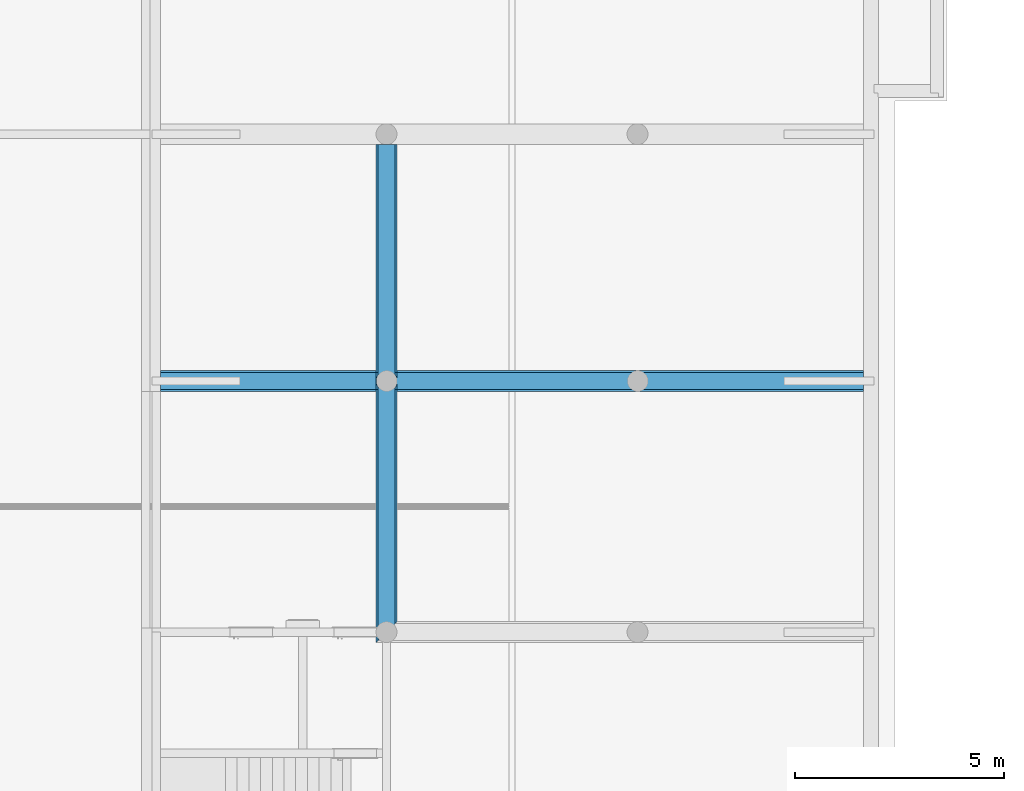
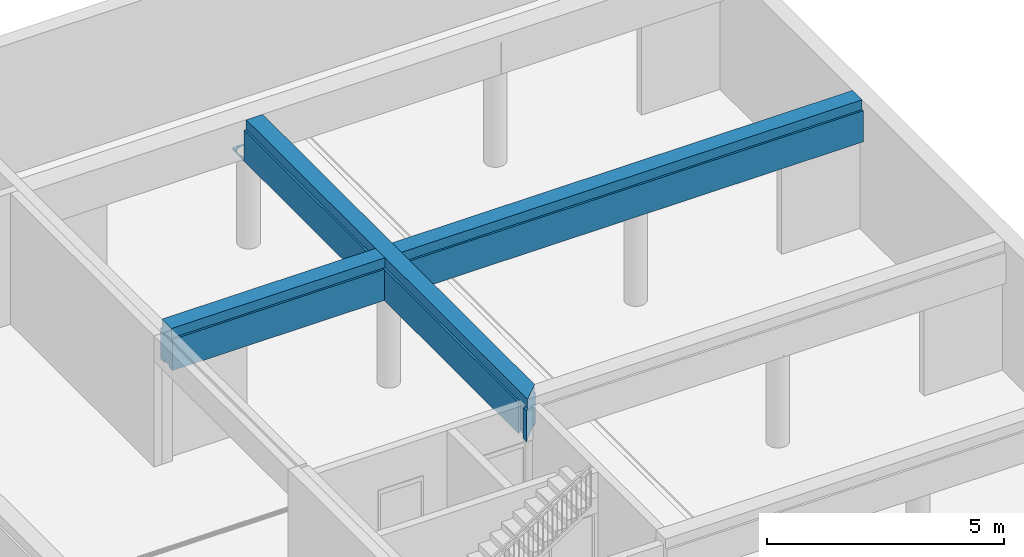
# One storey, part 12 of 25: 2 beams.
"""IFC2X3 building model written with IfcOpenShell, lengths in millimetres."""

from ifc_helpers import new_model, entity, si_unit, converted_unit, derived_unit, money_unit, direction, frame, origin_with_axes, place, context, subcontext, project, spatial, faceted_brep, material, material_list, type_object, element, save


model = new_model("IFC2X3")

# Units and contexts
model_context = context("Model", 3, precision=0.01, world=origin_with_axes(), true_north=direction((0.34421633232, 0.938890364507)))
body_context = subcontext(model_context, "Body", "Model", "MODEL_VIEW")
ifc_project = project(units=[si_unit("LENGTHUNIT", "METRE", prefix="MILLI"), si_unit("AREAUNIT", "SQUARE_METRE"), si_unit("VOLUMEUNIT", "CUBIC_METRE"), converted_unit("PLANEANGLEUNIT", "DEGREE", entity("IfcPlaneAngleMeasure", 0.0174532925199), si_unit("PLANEANGLEUNIT", "RADIAN"), dimensions=[0, 0, 0, 0, 0, 0, 0]), si_unit("SOLIDANGLEUNIT", "STERADIAN"), money_unit("USD"), converted_unit("TIMEUNIT", "Year", entity("IfcTimeMeasure", 31556926.0), si_unit("TIMEUNIT", "SECOND"), dimensions=[0, 0, 1, 0, 0, 0, 0]), si_unit("MASSUNIT", "GRAM", prefix="KILO"), si_unit("THERMODYNAMICTEMPERATUREUNIT", "DEGREE_CELSIUS"), si_unit("LUMINOUSINTENSITYUNIT", "LUMEN"), si_unit("ENERGYUNIT", "JOULE", prefix="MEGA"), derived_unit("THERMALCONDUCTANCEUNIT", [(si_unit("POWERUNIT", "WATT"), 1), (si_unit("LENGTHUNIT", "METRE"), -1), (si_unit("THERMODYNAMICTEMPERATUREUNIT", "KELVIN"), -1)]), derived_unit("SPECIFICHEATCAPACITYUNIT", [(si_unit("ENERGYUNIT", "JOULE"), 1), (si_unit("MASSUNIT", "GRAM", prefix="KILO"), -1), (si_unit("THERMODYNAMICTEMPERATUREUNIT", "KELVIN"), -1)]), derived_unit("MASSDENSITYUNIT", [(si_unit("MASSUNIT", "GRAM", prefix="KILO"), 1), (si_unit("VOLUMEUNIT", "CUBIC_METRE"), -1)])], contexts=[model_context])

# Site, building, storey
site_placement = place(None, origin_with_axes())
site = spatial("IfcSite", under=ifc_project, at=site_placement, Name="USTRONIE MORSKIE", CompositionType="ELEMENT")
building_placement = place(site_placement, origin_with_axes())
building = spatial("IfcBuilding", under=site, at=building_placement, Name="Budynek", CompositionType="ELEMENT")
storey_placement = place(building_placement, frame((0.0, 0.0, -3600.0), z_axis=(0.0, 0.0, 1.0), x_axis=(1.0, 0.0, 0.0)))
storey = spatial("IfcBuildingStorey", under=building, at=storey_placement, Name="GARAZ", CompositionType="ELEMENT", Elevation=-3600.0)

# Beams
ifc_material_1 = material(Name="Termoizolacja WEŁNA SKALNA")
ifc_material_2 = material(Name="Beton konstrukcyjny 01")
ifc_material_list = material_list([ifc_material_1, ifc_material_2])
beam_type = type_object("IfcBeamType", Name="GARAŻ P01 500 x 1050", PredefinedType="NOTDEFINED")
beam_1_placement = place(storey_placement, frame((414067.920919, 732801.199036, 3370.00030619), z_axis=(0.0, 0.0, 1.0), x_axis=(1.0, 0.0, 0.0)))
element("IfcBeam", 1, at=beam_1_placement, inside=storey, type_object=beam_type, material=ifc_material_list, Name="B1", context=body_context, shape_type="Brep", body=[
    faceted_brep([(222.307703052, 6125.0, -1000.0), (240.724507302, 6085.50503583, -1000.0), (249.999993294, 6050.88845084, -1000.0), (249.999993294, 6200.0, -1000.0), (199.99999553, 6200.0, -1000.0), (199.99999553, 6156.85870803, -1000.0), (222.307703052, 6125.0, -1050.0), (240.724507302, 6085.50503583, -1050.0), (249.999996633, 6050.88843838, -1050.0), (250.0, 11900.0, -1050.0), (249.999993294, 12150.0, -1050.0), (249.999993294, 12150.0, -1000.0), (250.0, 11900.0, -1000.0), (249.999993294, 11650.0, -1000.0), (249.999993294, 11650.0, -250.00000447), (249.999993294, 6200.00000224, -250.00000447), (199.99999553, 6200.00000224, -250.00000447), (197.312462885, 6160.69690242, -1000.0), (199.99999553, 11650.0, -1000.0), (199.99999553, 11751.4264814, -1000.0), (191.51111078, 11739.3030976, -999.999999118), (160.696902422, 11708.4888892, -999.999999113), (125.0, 11683.4936491, -999.999999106), (85.5050358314, 11665.0768448, -999.999999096), (43.4120444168, 11653.7980617, -999.999999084), (0.0, 11650.0, -999.999999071), (-43.4120444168, 11653.7980617, -999.999999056), (-85.5050358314, 11665.0768448, -999.999999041), (-125.0, 11683.4936491, -999.999999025), (-160.696902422, 11708.4888892, -999.999999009), (-191.51111078, 11739.3030976, -999.999998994), (-200.000002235, 11751.426491, -1000.0), (-200.000002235, 11650.0, -1000.0), (-200.000002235, 6200.0, -1000.0), (-200.000002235, 6140.28831956, -1000.0), (-185.709758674, 6160.69690242, -1000.0), (-154.895550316, 6191.51111078, -1000.0), (-119.198647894, 6216.50635095, -1000.0), (-79.7036837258, 6234.9231552, -1000.0), (-37.6106923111, 6246.20193825, -1000.0), (5.80135210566, 6250.0, -1000.0), (49.2133965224, 6246.20193825, -1000.0), (91.3063879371, 6234.9231552, -1000.0), (130.801352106, 6216.50635095, -1000.0), (166.498254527, 6191.51111078, -1000.0), (197.312462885, 6160.69690242, -1050.0), (240.724507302, 5914.49496417, -1050.0), (249.999996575, 5949.1115614, -1050.0), (249.999993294, 250.0, -1050.0), (176.104003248, 176.104009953, -1050.0), (160.696902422, 191.51111078, -1050.0), (125.0, 216.506350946, -1050.0), (85.5050358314, 234.923155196, -1050.0), (43.4120444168, 246.201938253, -1050.0), (0.0, 250.0, -1050.0), (-43.4120444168, 246.201938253, -1050.0), (-85.5050358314, 234.923155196, -1050.0), (-125.0, 216.506350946, -1050.0), (-160.696902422, 191.51111078, -1050.0), (-191.51111078, 160.696902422, -1050.0), (-216.506350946, 125.0, -1050.0), (-228.1640424, 100.0, -1050.0), (-250.0, 100.0, -1050.0), (-250.0, 11900.0, -1050.0), (-246.201938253, 11856.5879556, -1050.0), (-234.923155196, 11814.4949642, -1050.0), (-216.506350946, 11775.0, -1050.0), (-191.51111078, 11739.3030976, -1050.0), (-160.696902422, 11708.4888892, -1050.0), (-125.0, 11683.4936491, -1050.0), (-85.5050358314, 11665.0768448, -1050.0), (-43.4120444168, 11653.7980617, -1050.0), (0.0, 11650.0, -1050.0), (43.4120444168, 11653.7980617, -1050.0), (85.5050358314, 11665.0768448, -1050.0), (125.0, 11683.4936491, -1050.0), (160.696902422, 11708.4888892, -1050.0), (191.51111078, 11739.3030976, -1050.0), (216.506350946, 11775.0, -1050.0), (234.923155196, 11814.4949642, -1050.0), (246.201938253, 11856.5879556, -1050.0), (166.498254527, 6191.51111078, -1050.0), (130.801352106, 6216.50635095, -1050.0), (91.3063879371, 6234.9231552, -1050.0), (49.2133965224, 6246.20193825, -1050.0), (5.80135210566, 6250.0, -1050.0), (-37.6106923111, 6246.20193825, -1050.0), (-79.7036837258, 6234.9231552, -1050.0), (-119.198647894, 6216.50635095, -1050.0), (-154.895550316, 6191.51111078, -1050.0), (-185.709758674, 6160.69690242, -1050.0), (-210.70499884, 6125.0, -1050.0), (-229.121803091, 6085.50503583, -1050.0), (-240.400586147, 6043.41204442, -1050.0), (-244.198647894, 6000.0, -1050.0), (-240.400586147, 5956.58795558, -1050.0), (-229.121803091, 5914.49496417, -1050.0), (-210.70499884, 5875.0, -1050.0), (-185.709758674, 5839.30309758, -1050.0), (-154.895550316, 5808.48888922, -1050.0), (-119.198647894, 5783.49364905, -1050.0), (-79.7036837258, 5765.0768448, -1050.0), (-37.6106923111, 5753.79806175, -1050.0), (5.80135210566, 5750.0, -1050.0), (49.2133965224, 5753.79806175, -1050.0), (91.3063879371, 5765.0768448, -1050.0), (130.801352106, 5783.49364905, -1050.0), (166.498254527, 5808.48888922, -1050.0), (197.312462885, 5839.30309758, -1050.0), (222.307703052, 5875.0, -1050.0), (43.4120444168, 12146.2019383, -1050.0), (0.0, 12150.0, -1050.0), (246.201938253, 11943.4120444, -1050.0), (234.923155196, 11985.5050358, -1050.0), (216.506350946, 12025.0, -1050.0), (191.51111078, 12060.6969024, -1050.0), (160.696902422, 12091.5111108, -1050.0), (125.0, 12116.5063509, -1050.0), (85.5050358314, 12134.9231552, -1050.0), (-250.0, 12150.0, -1050.0), (-250.0, 12150.0, -1000.0), (-200.000002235, 12150.0, -1000.0), (0.0, 12150.0, -1000.0), (199.99999553, 12150.0, -1000.0), (234.923155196, 11985.5050358, -1000.0), (246.201938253, 11943.4120444, -1000.0), (199.99999553, 12048.5735186, -1000.0), (216.506350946, 12025.0, -1000.0), (216.506350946, 11775.0, -1000.0), (246.201938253, 11856.5879556, -1000.0), (234.923155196, 11814.4949642, -1000.0), (199.99999553, 11650.0, -250.00000447), (-216.506350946, 11775.0, -1000.0), (-246.201938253, 11856.5879556, -1000.0), (-250.0, 11900.0, -1000.0), (-250.0, 11650.0, -1000.0), (-234.923155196, 11814.4949642, -1000.0), (-200.000002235, 6200.00000224, -250.00000447), (-200.000002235, 11650.0, -250.00000447), (-210.70499884, 6125.0, -1000.0), (-250.0, 6200.0, -1000.0), (-250.0, 5800.0, -1000.0), (-200.000002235, 5800.0, -1000.0), (-200.000002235, 5859.71168044, -1000.0), (-210.70499884, 5875.0, -1000.0), (-229.121803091, 5914.49496417, -1000.0), (-240.400586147, 5956.58795558, -1000.0), (-244.198647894, 6000.0, -1000.0), (-240.400586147, 6043.41204442, -1000.0), (-229.121803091, 6085.50503583, -1000.0), (240.724507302, 5914.49496417, -1000.0), (249.999993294, 5949.11154916, -1000.0), (249.999993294, 5800.0, -1000.0), (249.999993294, 5800.00000447, -250.00000447), (249.999993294, 250.0, -250.00000447), (176.104003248, 176.104009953, -1000.0), (199.99999553, 200.000002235, -250.00000447), (199.99999553, 200.000002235, -1000.00000224), (160.696902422, 191.51111078, -1000.0), (125.0, 216.506350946, -1000.0), (85.5050358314, 234.923155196, -1000.0), (43.4120444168, 246.201938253, -1000.0), (0.0, 250.0, -1000.0), (-43.4120444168, 246.201938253, -1000.0), (-85.5050358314, 234.923155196, -1000.0), (-125.0, 216.506350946, -1000.0), (-160.696902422, 191.51111078, -1000.0), (-191.51111078, 160.696902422, -1000.0), (-200.000002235, 148.57350901, -1000.0), (-216.506350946, 125.0, -1000.0), (-228.1640424, 100.0, -1000.0), (-200.000002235, 100.0, -1000.0), (-200.000002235, 100.0, -250.00000447), (-250.0, 100.0, -250.00000447), (-250.0, 5800.00000447, -250.00000447), (-250.0, 6200.00000224, -250.00000447), (-250.0, 11650.0, -250.00000447), (-185.709758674, 5839.30309758, -1000.0), (-154.895550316, 5808.48888922, -1000.0), (-119.198647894, 5783.49364905, -1000.0), (-79.7036837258, 5765.0768448, -1000.0), (-37.6106923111, 5753.79806175, -1000.0), (5.80135210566, 5750.0, -1000.0), (49.2133965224, 5753.79806175, -1000.0), (91.3063879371, 5765.0768448, -1000.0), (130.801352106, 5783.49364905, -1000.0), (166.498254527, 5808.48888922, -1000.0), (197.312462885, 5839.30309758, -1000.0), (199.99999553, 5843.14129197, -1000.0), (222.307703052, 5875.0, -1000.0), (43.4120444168, 12146.2019383, -999.999999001), (191.51111078, 12060.6969024, -999.999999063), (160.696902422, 12091.5111108, -999.999999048), (125.0, 12116.5063509, -999.999999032), (85.5050358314, 12134.9231552, -999.999999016), (-246.201938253, 11943.4120444, -1050.0), (-43.4120444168, 12146.2019383, -1050.0), (-85.5050358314, 12134.9231552, -1050.0), (-125.0, 12116.5063509, -1050.0), (-160.696902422, 12091.5111108, -1050.0), (-191.51111078, 12060.6969024, -1050.0), (-216.506350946, 12025.0, -1050.0), (-234.923155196, 11985.5050358, -1050.0), (-216.506350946, 12025.0, -1000.0), (-200.000002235, 12048.573509, -1000.0), (-246.201938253, 11943.4120444, -1000.0), (-234.923155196, 11985.5050358, -1000.0), (-43.4120444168, 12146.2019383, -999.999998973), (-191.51111078, 12060.6969024, -999.999998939), (-160.696902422, 12091.5111108, -999.999998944), (-125.0, 12116.5063509, -999.999998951), (-85.5050358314, 12134.9231552, -999.999998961), (-200.000002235, 5800.00000447, -250.00000447), (199.99999553, 5800.0, -1000.0), (199.99999553, 5800.00000447, -250.00000447)], [[[0, 1, 2, 3, 4, 5]], [[1, 0, 6, 7]], [[8, 2, 1, 7]], [[2, 8, 9, 10, 11, 12, 13, 14, 15, 3]], [[4, 3, 15, 16]], [[17, 5, 4, 18, 19, 20, 21, 22, 23, 24, 25, 26, 27, 28, 29, 30, 31, 32, 33, 34, 35, 36, 37, 38, 39, 40, 41, 42, 43, 44]], [[0, 5, 17, 45, 6]], [[46, 47, 48, 49, 50, 51, 52, 53, 54, 55, 56, 57, 58, 59, 60, 61, 62, 63, 64, 65, 66, 67, 68, 69, 70, 71, 72, 73, 74, 75, 76, 77, 78, 79, 80, 9, 8, 7, 6, 45, 81, 82, 83, 84, 85, 86, 87, 88, 89, 90, 91, 92, 93, 94, 95, 96, 97, 98, 99, 100, 101, 102, 103, 104, 105, 106, 107, 108, 109]], [[110, 111, 10, 9, 112, 113, 114, 115, 116, 117, 118]], [[10, 111, 119, 120, 121, 122, 123, 11]], [[124, 125, 12, 11, 123, 126, 127]], [[128, 19, 18, 13, 12, 129, 130]], [[14, 13, 18, 131]], [[16, 15, 14, 131]], [[131, 18, 4, 16]], [[19, 128, 78, 77, 20]], [[21, 20, 77, 76]], [[22, 21, 76, 75]], [[23, 22, 75, 74]], [[24, 23, 74, 73]], [[25, 24, 73, 72]], [[26, 25, 72, 71]], [[27, 26, 71, 70]], [[28, 27, 70, 69]], [[29, 28, 69, 68]], [[30, 29, 68, 67]], [[31, 30, 67, 66, 132]], [[133, 134, 135, 32, 31, 132, 136]], [[137, 33, 32, 138]], [[139, 34, 33, 140, 141, 142, 143, 144, 145, 146, 147, 148, 149]], [[35, 34, 139, 91, 90]], [[36, 35, 90, 89]], [[37, 36, 89, 88]], [[38, 37, 88, 87]], [[39, 38, 87, 86]], [[40, 39, 86, 85]], [[41, 40, 85, 84]], [[42, 41, 84, 83]], [[43, 42, 83, 82]], [[44, 43, 82, 81]], [[17, 44, 81, 45]], [[150, 151, 47, 46]], [[47, 151, 152, 153, 154, 48]], [[155, 49, 48, 154, 156, 157]], [[49, 155, 158, 50]], [[158, 159, 51, 50]], [[159, 160, 52, 51]], [[160, 161, 53, 52]], [[161, 162, 54, 53]], [[162, 163, 55, 54]], [[163, 164, 56, 55]], [[164, 165, 57, 56]], [[165, 166, 58, 57]], [[166, 167, 59, 58]], [[167, 168, 169, 60, 59]], [[61, 60, 169, 170]], [[170, 171, 172, 173, 62, 61]], [[120, 119, 63, 62, 173, 174, 141, 140, 175, 176, 135, 134]], [[134, 133, 64, 63]], [[133, 136, 65, 64]], [[136, 132, 66, 65]], [[128, 130, 79, 78]], [[130, 129, 80, 79]], [[129, 12, 9, 80]], [[139, 149, 92, 91]], [[149, 148, 93, 92]], [[148, 147, 94, 93]], [[147, 146, 95, 94]], [[146, 145, 96, 95]], [[145, 144, 97, 96]], [[143, 177, 98, 97, 144]], [[177, 178, 99, 98]], [[178, 179, 100, 99]], [[179, 180, 101, 100]], [[180, 181, 102, 101]], [[181, 182, 103, 102]], [[182, 183, 104, 103]], [[183, 184, 105, 104]], [[184, 185, 106, 105]], [[185, 186, 107, 106]], [[186, 187, 108, 107]], [[188, 189, 109, 108, 187]], [[189, 150, 46, 109]], [[190, 122, 111, 110]], [[12, 125, 112, 9]], [[125, 124, 113, 112]], [[124, 127, 114, 113]], [[127, 126, 191, 115, 114]], [[191, 192, 116, 115]], [[192, 193, 117, 116]], [[193, 194, 118, 117]], [[194, 190, 110, 118]], [[195, 63, 119, 111, 196, 197, 198, 199, 200, 201, 202]], [[203, 204, 121, 120, 134, 205, 206]], [[207, 122, 121, 204, 208, 209, 210, 211]], [[191, 126, 123, 122, 190, 194, 193, 192]], [[32, 135, 176, 138]], [[137, 175, 140, 33]], [[138, 176, 175, 137]], [[142, 141, 174, 212]], [[177, 143, 142, 168, 167, 166, 165, 164, 163, 162, 161, 160, 159, 158, 155, 157, 213, 188, 187, 186, 185, 184, 183, 182, 181, 180, 179, 178]], [[189, 188, 213, 152, 151, 150]], [[214, 153, 152, 213]], [[156, 154, 153, 214]], [[213, 157, 156, 214]], [[168, 171, 170, 169]], [[171, 168, 142, 212, 172]], [[212, 174, 173, 172]], [[205, 134, 63, 195]], [[122, 207, 196, 111]], [[207, 211, 197, 196]], [[211, 210, 198, 197]], [[210, 209, 199, 198]], [[209, 208, 200, 199]], [[208, 204, 203, 201, 200]], [[203, 206, 202, 201]], [[206, 205, 195, 202]]]),
    faceted_brep([(-176.104009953, -176.104003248, -1050.0), (-176.104009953, -176.104003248, -1000.0), (-200.000002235, -199.99999553, -1000.00000224), (-200.000002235, -199.99999553, -250.00000447), (-250.0, -249.999993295, -250.00000447), (-250.0, -249.999993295, -1050.0), (-191.51111078, -160.696902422, -1000.0), (-191.51111078, -160.696902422, -1050.0), (-200.000002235, -148.57350901, -1000.0), (-200.000002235, -100.0, -1000.0), (-200.000002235, -100.0, -250.00000447), (-250.0, -100.0, -250.00000447), (-250.0, -100.0, -1050.0), (-228.1640424, -100.0, -1050.0), (-216.506350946, -125.0, -1050.0), (-216.506350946, -125.0, -1000.0), (-228.1640424, -100.0, -1000.0)], [[[0, 1, 2, 3, 4, 5]], [[6, 1, 0, 7]], [[6, 8, 2, 1]], [[8, 9, 10, 3, 2]], [[4, 3, 10, 11]], [[12, 5, 4, 11]], [[7, 0, 5, 12, 13, 14]], [[8, 6, 7, 14, 15]], [[16, 9, 8, 15]], [[16, 13, 12, 11, 10, 9]], [[14, 13, 16, 15]]]),
    faceted_brep([(199.99999553, 200.000002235, -250.00000447), (199.99999553, 11650.0, -250.00000447), (200.0, 11650.0, 0.0), (200.0, 200.000006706, 0.0), (200.0, 200.000006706, -1000.0), (200.0, 11650.0, -1000.0), (-200.000002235, 11650.0, -250.00000447), (-200.0, 11650.0, 0.0), (-200.0, 11650.0, -1000.0), (-200.0, -199.999993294, 0.0), (-200.000002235, -199.99999553, -250.00000447), (-200.0, -199.999993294, -1000.0)], [[[0, 1, 2, 3]], [[4, 5, 1, 0]], [[6, 7, 2, 1, 5, 8]], [[3, 2, 7, 9]], [[9, 10, 11, 4, 0, 3]], [[11, 8, 5, 4]], [[9, 7, 6, 10]], [[10, 6, 8, 11]]]),
])
beam_2_placement = place(storey_placement, frame((408667.920919, 738801.199036, 3370.00030619), z_axis=(0.0, 0.0, 1.0), x_axis=(0.0, -1.0, 0.0)))
element("IfcBeam", 2, at=beam_2_placement, inside=storey, type_object=beam_type, material=ifc_material_list, Name="B1", context=body_context, shape_type="Brep", body=[
    faceted_brep([(85.5050358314, 11640.7245073, -1050.0), (43.4120444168, 11652.0032904, -1050.0), (0.0, 11655.8013521, -1050.0), (-43.4120444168, 11652.0032904, -1050.0), (-85.5050358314, 11640.7245073, -1050.0), (-125.0, 11622.3077031, -1050.0), (-160.696902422, 11597.3124629, -1050.0), (-191.51111078, 11566.4982545, -1050.0), (-216.506350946, 11530.8013521, -1050.0), (-234.923155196, 11491.3063879, -1050.0), (-246.201938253, 11449.2133965, -1050.0), (-250.0, 11405.8013521, -1050.0), (-250.0, 16800.0, -1050.0), (-100.0, 16800.0, -1050.0), (-100.0, 14900.0, -1050.0), (100.0, 14900.0, -1050.0), (100.0, 16800.0, -1050.0), (249.999993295, 16800.0, -1050.0), (250.0, 11405.8013521, -1050.0), (246.201938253, 11449.2133965, -1050.0), (234.923155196, 11491.3063879, -1050.0), (216.506350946, 11530.8013521, -1050.0), (191.51111078, 11566.4982545, -1050.0), (160.696902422, 11597.3124629, -1050.0), (125.0, 11622.3077031, -1050.0), (85.5050358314, 11640.7245073, -1000.0), (43.4120444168, 11652.0032904, -1000.0), (0.0, 11655.8013521, -1000.0), (-43.4120444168, 11652.0032904, -1000.0), (-85.5050358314, 11640.7245073, -1000.0), (-125.0, 11622.3077031, -1000.0), (-160.696902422, 11597.3124629, -1000.0), (-191.51111078, 11566.4982545, -1000.0), (-200.000001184, 11554.3748626, -1000.0), (-216.506350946, 11530.8013521, -1000.0), (-234.923155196, 11491.3063879, -1000.0), (-246.201938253, 11449.2133965, -1000.0), (-250.0, 11405.8013521, -1000.0), (-250.0, 16800.0, -250.00000447), (-250.0, 5649.99999329, -1050.0), (-250.0, 5649.99999329, -250.00000447), (-200.000002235, 16800.0, -1000.00000224), (-100.0, 16800.0, -1000.00029874), (-200.000002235, 16800.0, -250.00000447), (-100.0, 14900.0, -1000.00029874), (100.0, 14900.0, -1000.00029874), (100.0, 16800.0, -1000.00029874), (199.99999553, 16800.0, -1000.00000224), (199.99999553, 16800.0, -250.00000447), (249.999993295, 16800.0, -250.00000447), (249.999993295, 5649.99999329, -250.00000447), (249.999993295, 5649.99999329, -1050.0), (250.0, 11405.8013521, -1000.0), (246.201938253, 11449.2133965, -1000.0), (234.923155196, 11491.3063879, -1000.0), (216.506350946, 11530.8013521, -1000.0), (199.999997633, 11554.3748677, -1000.0), (191.51111078, 11566.4982545, -1000.0), (160.696902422, 11597.3124629, -1000.0), (125.0, 11622.3077031, -1000.0), (-200.000001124, 11257.2278415, -1000.0), (-216.506350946, 11280.8013521, -1000.0), (-234.923155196, 11320.2963163, -1000.0), (-246.201938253, 11362.3893077, -1000.0), (-246.201938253, 11362.3893077, -1050.0), (246.201938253, 11362.3893077, -1050.0), (50.8884508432, 5649.99999329, -1050.0), (43.4120444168, 5652.00329036, -1050.0), (0.0, 5655.80135211, -1050.0), (-43.4120444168, 5652.00329036, -1050.0), (-50.8884508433, 5649.99999329, -1050.0), (-234.923155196, 11320.2963163, -1050.0), (-216.506350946, 11280.8013521, -1050.0), (-191.51111078, 11245.1044497, -1050.0), (-160.696902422, 11214.2902413, -1050.0), (-125.0, 11189.2950012, -1050.0), (-85.5050358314, 11170.8781969, -1050.0), (-43.4120444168, 11159.5994139, -1050.0), (0.0, 11155.8013521, -1050.0), (43.4120444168, 11159.5994139, -1050.0), (85.5050358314, 11170.8781969, -1050.0), (125.0, 11189.2950012, -1050.0), (160.696902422, 11214.2902413, -1050.0), (191.51111078, 11245.1044497, -1050.0), (216.506350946, 11280.8013521, -1050.0), (234.923155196, 11320.2963163, -1050.0), (-50.8884508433, 5649.99999329, -1000.0), (-200.0, 5649.99999329, -1000.0), (-200.000002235, 5649.99999329, -250.00000447), (199.999997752, 11257.2278367, -1000.0), (200.0, 5649.99999329, -1000.0), (199.99999553, 5649.99999329, -250.00000447), (50.8884508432, 5649.99999329, -1000.0), (246.201938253, 11362.3893077, -1000.0), (234.923155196, 11320.2963163, -1000.0), (216.506350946, 11280.8013521, -1000.0), (-191.51111078, 11245.1044497, -1000.0), (43.4120444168, 5652.00329036, -1000.0), (0.0, 5655.80135211, -1000.0), (-43.4120444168, 5652.00329036, -1000.0), (-160.696902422, 11214.2902413, -1000.0), (-125.0, 11189.2950012, -1000.0), (-85.5050358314, 11170.8781969, -1000.0), (-43.4120444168, 11159.5994139, -1000.0), (0.0, 11155.8013521, -1000.0), (43.4120444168, 11159.5994139, -1000.0), (85.5050358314, 11170.8781969, -1000.0), (125.0, 11189.2950012, -1000.0), (160.696902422, 11214.2902413, -1000.0), (191.51111078, 11245.1044497, -1000.0)], [[[0, 1, 2, 3, 4, 5, 6, 7, 8, 9, 10, 11, 12, 13, 14, 15, 16, 17, 18, 19, 20, 21, 22, 23, 24]], [[25, 26, 1, 0]], [[26, 27, 2, 1]], [[27, 28, 3, 2]], [[28, 29, 4, 3]], [[29, 30, 5, 4]], [[30, 31, 6, 5]], [[31, 32, 7, 6]], [[32, 33, 34, 8, 7]], [[9, 8, 34, 35]], [[10, 9, 35, 36]], [[11, 10, 36, 37]], [[38, 12, 11, 39, 40]], [[41, 42, 13, 12, 38, 43]], [[14, 13, 42, 44]], [[14, 44, 45, 15]], [[15, 45, 46, 16]], [[17, 16, 46, 47, 48, 49]], [[17, 49, 50, 51, 18]], [[19, 18, 52, 53]], [[20, 19, 53, 54]], [[21, 20, 54, 55]], [[56, 57, 22, 21, 55]], [[57, 58, 23, 22]], [[58, 59, 24, 23]], [[59, 25, 0, 24]], [[29, 28, 27, 26, 25, 59, 58, 57, 56, 47, 46, 45, 44, 42, 41, 33, 32, 31, 30]], [[33, 60, 61, 62, 63, 37, 36, 35, 34]], [[64, 11, 37, 63]], [[65, 18, 51, 66, 67, 68, 69, 70, 39, 11, 64, 71, 72, 73, 74, 75, 76, 77, 78, 79, 80, 81, 82, 83, 84, 85]], [[70, 86, 87, 88, 40, 39]], [[43, 38, 40, 88]], [[60, 33, 41, 43, 88, 87]], [[56, 89, 90, 91, 48, 47]], [[49, 48, 91, 50]], [[92, 66, 51, 50, 91, 90]], [[18, 65, 93, 52]], [[89, 56, 55, 54, 53, 52, 93, 94, 95]], [[73, 72, 61, 60, 96]], [[72, 71, 62, 61]], [[71, 64, 63, 62]], [[92, 97, 67, 66]], [[97, 98, 68, 67]], [[98, 99, 69, 68]], [[99, 86, 70, 69]], [[96, 100, 74, 73]], [[100, 101, 75, 74]], [[101, 102, 76, 75]], [[102, 103, 77, 76]], [[103, 104, 78, 77]], [[104, 105, 79, 78]], [[105, 106, 80, 79]], [[106, 107, 81, 80]], [[107, 108, 82, 81]], [[108, 109, 83, 82]], [[84, 83, 109, 89, 95]], [[85, 84, 95, 94]], [[65, 85, 94, 93]], [[96, 60, 87, 86, 99, 98, 97, 92, 90, 89, 109, 108, 107, 106, 105, 104, 103, 102, 101, 100]]]),
    faceted_brep([(100.0, 1900.0, -1000.00030619), (100.0, 0.0, -1000.00030619), (199.99999553, 0.0, -1000.00000224), (200.0, 5150.0, -1000.0), (-200.0, 5150.0, -1000.0), (-200.000002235, 0.0, -1000.00000224), (-100.0, 0.0, -1000.00030619), (-100.0, 1900.0, -1000.00030619), (100.0, 1900.0, -1050.0), (100.0, 0.0, -1050.0), (249.999993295, 0.0, -1050.0), (249.999993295, 0.0, -250.00000447), (199.99999553, 0.0, -250.00000447), (199.99999553, 5150.0, -250.00000447), (249.999993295, 5150.0, -250.00000447), (249.999993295, 5150.0, -1050.0), (-250.0, 5150.0, -1050.0), (-250.0, 5150.0, -250.00000447), (-200.000002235, 5150.0, -250.00000447), (-200.000002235, 0.0, -250.00000447), (-100.0, 0.0, -1050.0), (-250.0, 0.0, -250.00000447), (-250.0, 0.0, -1050.0), (-100.0, 1900.0, -1050.0)], [[[0, 1, 2, 3, 4, 5, 6, 7]], [[1, 0, 8, 9]], [[1, 9, 10, 11, 12, 2]], [[2, 12, 13, 3]], [[14, 15, 16, 17, 18, 4, 3, 13]], [[19, 5, 4, 18]], [[20, 6, 5, 19, 21, 22]], [[7, 6, 20, 23]], [[0, 7, 23, 8]], [[23, 20, 22, 16, 15, 10, 9, 8]], [[11, 10, 15, 14]], [[12, 11, 14, 13]], [[22, 21, 17, 16]], [[21, 19, 18, 17]]]),
    faceted_brep([(200.0, 0.0, 0.0), (200.0, 5200.0, 0.0), (-200.0, 5200.0, 0.0), (-200.0, 0.0, 0.0), (199.99999553, 0.0, -250.00000447), (199.99999553, 5199.99999776, -250.00000447), (-200.000002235, 5199.99999776, -250.00000447), (-200.000002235, 0.0, -250.00000447), (-200.0, 0.0, -1000.0), (200.0, 0.0, -1000.0), (200.0, 5200.0, -1000.0), (-200.0, 5200.0, -1000.0)], [[[0, 1, 2, 3]], [[4, 5, 1, 0]], [[5, 6, 2, 1]], [[3, 2, 6, 7]], [[7, 8, 9, 4, 0, 3]], [[9, 10, 5, 4]], [[10, 11, 6, 5]], [[7, 6, 11, 8]], [[8, 11, 10, 9]]]),
    faceted_brep([(-200.000002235, 16800.0, -250.00000447), (-200.000002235, 5599.99999553, -250.00000447), (-200.0, 5600.0, 0.0), (-200.0, 16800.0, 0.0), (-200.0, 16800.0, -1000.0), (-200.0, 5600.0, -1000.0), (199.99999553, 5599.99999553, -250.00000447), (200.0, 5600.0, 0.0), (200.0, 16800.0, 0.0), (199.99999553, 16800.0, -250.00000447), (200.0, 16800.0, -1000.0), (200.0, 5600.0, -1000.0)], [[[0, 1, 2, 3]], [[4, 5, 1, 0]], [[6, 7, 2, 1]], [[3, 2, 7, 8]], [[8, 9, 10, 4, 0, 3]], [[10, 11, 5, 4]], [[6, 1, 5, 11]], [[8, 7, 6, 9]], [[9, 6, 11, 10]]]),
])

save(model, "model.ifc")
